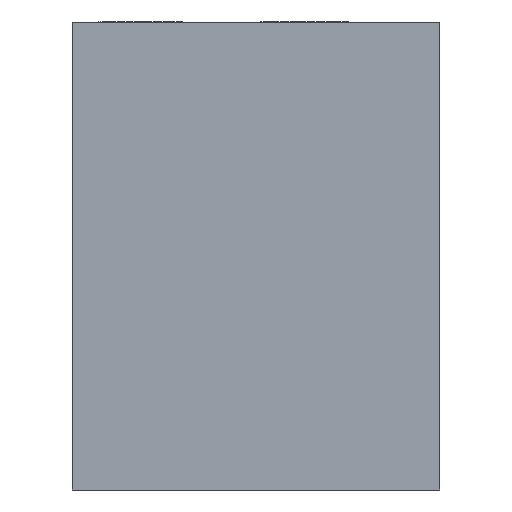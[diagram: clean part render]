
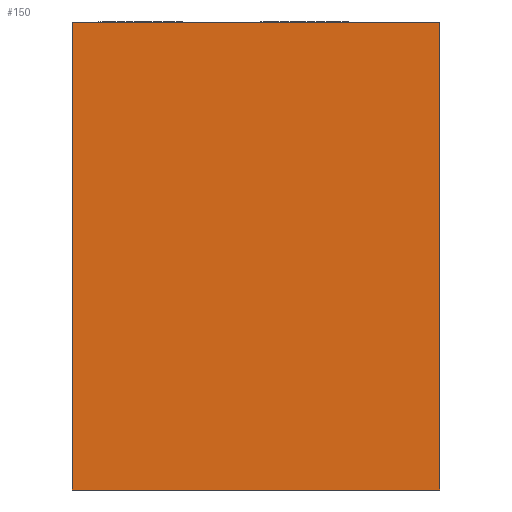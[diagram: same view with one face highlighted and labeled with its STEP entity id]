
A CAD part, front view. The second image highlights one B-rep face of the part: STEP entity #150.
In plain terms, the highlighted planar face has unit normal (0, -1, 0).
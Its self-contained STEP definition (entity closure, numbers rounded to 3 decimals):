
#107=PLANE('',#623);
#121=FACE_OUTER_BOUND('',#297,.T.);
#123=LINE('',#875,#135);
#124=LINE('',#878,#136);
#125=LINE('',#880,#137);
#126=LINE('',#882,#138);
#135=VECTOR('',#711,1.);
#136=VECTOR('',#712,1.);
#137=VECTOR('',#713,1.);
#138=VECTOR('',#714,1.);
#150=ADVANCED_FACE('',(#121),#107,.F.);
#297=EDGE_LOOP('',(#379,#380,#381,#382));
#379=ORIENTED_EDGE('',*,*,#531,.T.);
#380=ORIENTED_EDGE('',*,*,#532,.F.);
#381=ORIENTED_EDGE('',*,*,#533,.F.);
#382=ORIENTED_EDGE('',*,*,#534,.T.);
#479=VERTEX_POINT('',#876);
#480=VERTEX_POINT('',#877);
#481=VERTEX_POINT('',#879);
#482=VERTEX_POINT('',#881);
#531=EDGE_CURVE('',#479,#480,#123,.T.);
#532=EDGE_CURVE('',#481,#480,#124,.T.);
#533=EDGE_CURVE('',#482,#481,#125,.T.);
#534=EDGE_CURVE('',#482,#479,#126,.T.);
#623=AXIS2_PLACEMENT_3D('',#883,#715,#716);
#711=DIRECTION('',(0.,0.,1.));
#712=DIRECTION('',(1.,0.,0.));
#713=DIRECTION('',(0.,0.,1.));
#714=DIRECTION('',(1.,0.,0.));
#715=DIRECTION('',(0.,1.,0.));
#716=DIRECTION('',(0.,0.,1.));
#875=CARTESIAN_POINT('',(0.,-62.,-50.));
#876=CARTESIAN_POINT('',(0.,-62.,-50.));
#877=CARTESIAN_POINT('',(0.,-62.,52.));
#878=CARTESIAN_POINT('',(-80.,-62.,52.));
#879=CARTESIAN_POINT('',(-80.,-62.,52.));
#880=CARTESIAN_POINT('',(-80.,-62.,-50.));
#881=CARTESIAN_POINT('',(-80.,-62.,-50.));
#882=CARTESIAN_POINT('',(-80.,-62.,-50.));
#883=CARTESIAN_POINT('',(-80.,-62.,-50.));
